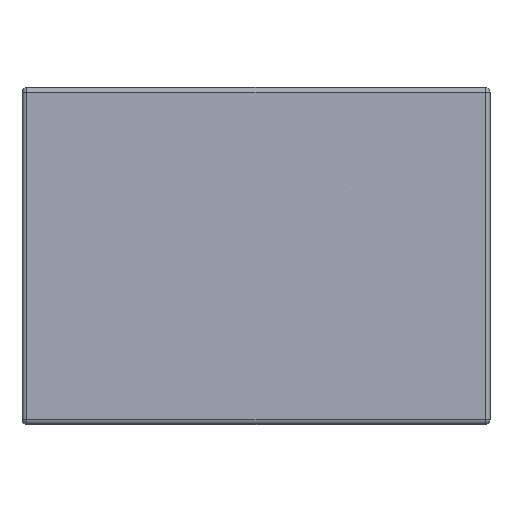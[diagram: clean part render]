
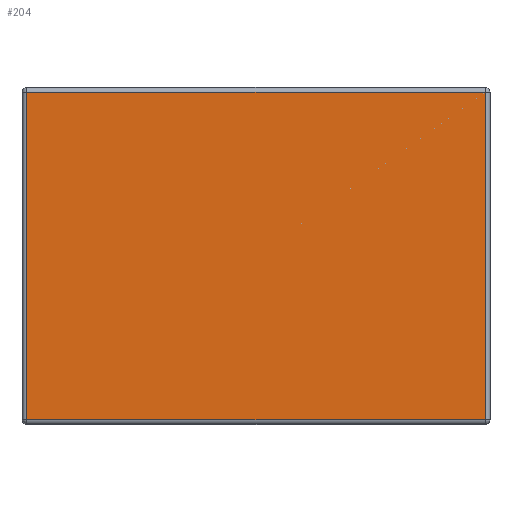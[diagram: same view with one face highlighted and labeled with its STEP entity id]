
A CAD part, front view. The second image highlights one B-rep face of the part: STEP entity #204.
In plain terms, the highlighted planar face has unit normal (0, -1, 0).
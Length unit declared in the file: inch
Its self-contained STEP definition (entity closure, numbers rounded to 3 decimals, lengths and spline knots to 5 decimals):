
#165 = CARTESIAN_POINT ( 'NONE',  ( 0.09094, 0., -0.06496 ) ) ;
#204 = ADVANCED_FACE ( 'NONE', ( #1712 ), #751, .F. ) ;
#264 = CARTESIAN_POINT ( 'NONE',  ( 0., 0., -0.06496 ) ) ;
#316 = LINE ( 'NONE', #3127, #1533 ) ;
#331 = VERTEX_POINT ( 'NONE', #1822 ) ;
#452 = CARTESIAN_POINT ( 'NONE',  ( -0.09094, 0., -0.06496 ) ) ;
#630 = ORIENTED_EDGE ( 'NONE', *, *, #796, .T. ) ;
#751 = PLANE ( 'NONE',  #4503 ) ;
#796 = EDGE_CURVE ( 'NONE', #4289, #1632, #2357, .T. ) ;
#1317 = CARTESIAN_POINT ( 'NONE',  ( 0., 0., 0. ) ) ;
#1331 = ORIENTED_EDGE ( 'NONE', *, *, #3972, .T. ) ;
#1533 = VECTOR ( 'NONE', #3968, 39.37008 ) ;
#1632 = VERTEX_POINT ( 'NONE', #4113 ) ;
#1712 = FACE_OUTER_BOUND ( 'NONE', #4594, .T. ) ;
#1822 = CARTESIAN_POINT ( 'NONE',  ( -0.09094, 0., 0.06496 ) ) ;
#2101 = DIRECTION ( 'NONE',  ( 1., 0., 0. ) ) ;
#2132 = DIRECTION ( 'NONE',  ( 0., 0., 1. ) ) ;
#2357 = LINE ( 'NONE', #5062, #5572 ) ;
#2495 = EDGE_CURVE ( 'NONE', #331, #2817, #5274, .T. ) ;
#2523 = VECTOR ( 'NONE', #5960, 39.37008 ) ;
#2543 = ORIENTED_EDGE ( 'NONE', *, *, #4049, .T. ) ;
#2646 = LINE ( 'NONE', #264, #5682 ) ;
#2817 = VERTEX_POINT ( 'NONE', #452 ) ;
#3069 = DIRECTION ( 'NONE',  ( 0., 1., 0. ) ) ;
#3127 = CARTESIAN_POINT ( 'NONE',  ( 0., 0., 0.06496 ) ) ;
#3743 = DIRECTION ( 'NONE',  ( 0., 0., 1. ) ) ;
#3802 = CARTESIAN_POINT ( 'NONE',  ( -0.09094, 0., 0. ) ) ;
#3968 = DIRECTION ( 'NONE',  ( -1., 0., 0. ) ) ;
#3972 = EDGE_CURVE ( 'NONE', #1632, #331, #316, .T. ) ;
#4049 = EDGE_CURVE ( 'NONE', #2817, #4289, #2646, .T. ) ;
#4113 = CARTESIAN_POINT ( 'NONE',  ( 0.09094, 0., 0.06496 ) ) ;
#4289 = VERTEX_POINT ( 'NONE', #165 ) ;
#4503 = AXIS2_PLACEMENT_3D ( 'NONE', #1317, #3069, #2132 ) ;
#4594 = EDGE_LOOP ( 'NONE', ( #1331, #4808, #2543, #630 ) ) ;
#4808 = ORIENTED_EDGE ( 'NONE', *, *, #2495, .T. ) ;
#5062 = CARTESIAN_POINT ( 'NONE',  ( 0.09094, 0., 0. ) ) ;
#5274 = LINE ( 'NONE', #3802, #2523 ) ;
#5572 = VECTOR ( 'NONE', #3743, 39.37008 ) ;
#5682 = VECTOR ( 'NONE', #2101, 39.37008 ) ;
#5960 = DIRECTION ( 'NONE',  ( 0., 0., -1. ) ) ;
